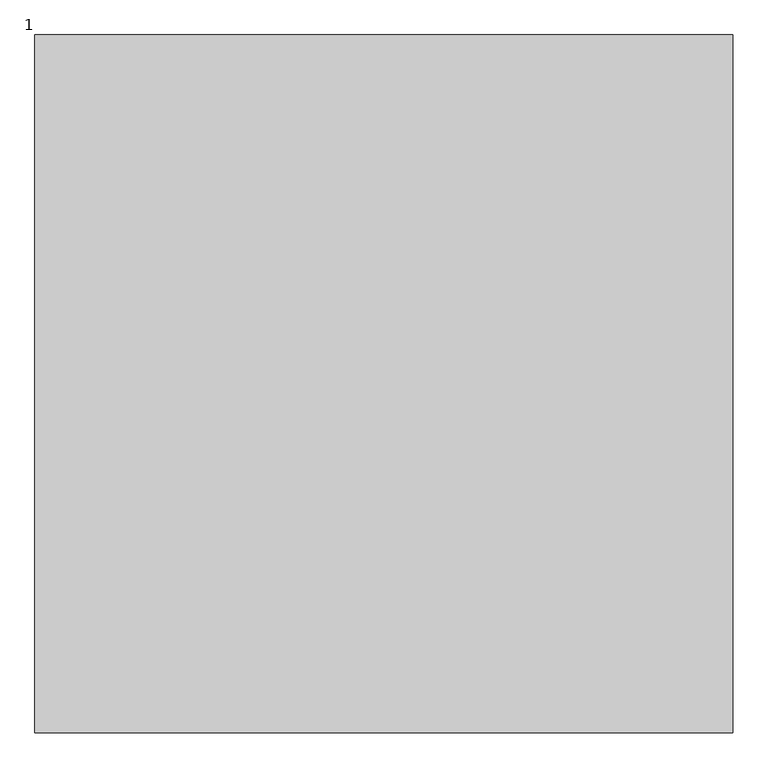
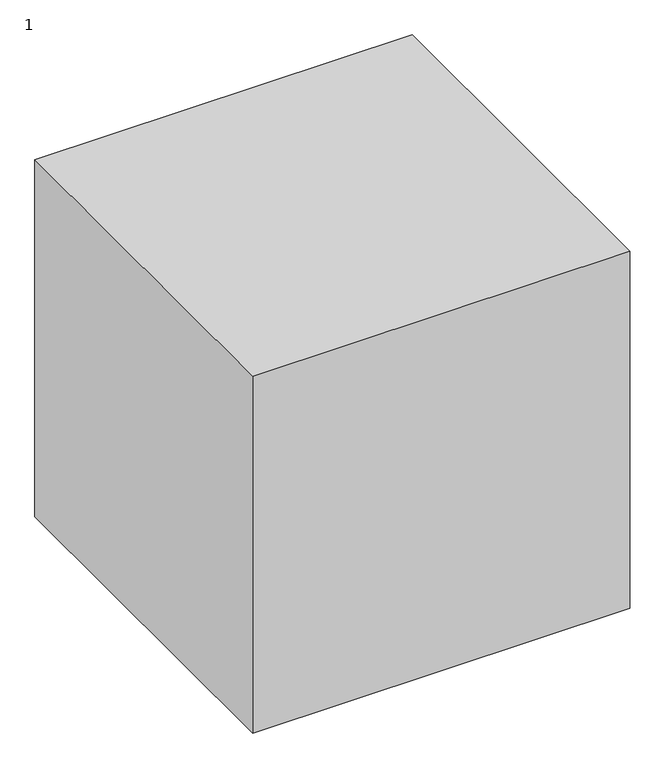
"""IFC4 building model written with IfcOpenShell, lengths in millimetres: proxy geometry, 12221111211 : 1."""

from ifc_helpers import new_model, si_unit, origin, origin_with_axes, place, context, project, spatial, polyline, outline, extrude, source, transform, mapped, element, save


def proxy_1_9805320a(model_context):
    return source(origin(), model_context, "Body", "SweptSolid", [
        extrude(outline(polyline([(9692.0243292, -664.7705528), (9692.0243292, -1664.7705528), (8692.0243292, -1664.7705528), (8692.0243292, -664.7705528), (9692.0243292, -664.7705528)])), origin_with_axes(), (0.0, 0.0, 1.0), 1000.0),
    ])


if __name__ == "__main__":
    model = new_model("IFC4")
    model_context = context("Model", 3, world=origin())
    ifc_project = project(units=[si_unit("LENGTHUNIT", "METRE", prefix="MILLI")], contexts=[model_context])
    site = spatial("IfcSite", under=ifc_project)
    building = spatial("IfcBuilding", under=site)
    placement = place(None, origin())
    proxy_1_shape = proxy_1_9805320a(model_context)
    element("IfcBuildingElementProxy", 1, Name="12221111211 : 1", ObjectType="12221111211 : 1", at=placement, inside=building, context=model_context, shape_type="MappedRepresentation", body=[
        mapped(proxy_1_shape, transform((0.0, 0.0, 0.0), x_axis=(1.0, 0.0, 0.0), y_axis=(0.0, 1.0, 0.0), z_axis=(0.0, 0.0, 1.0))),
    ])
    save(model, "model.ifc")
